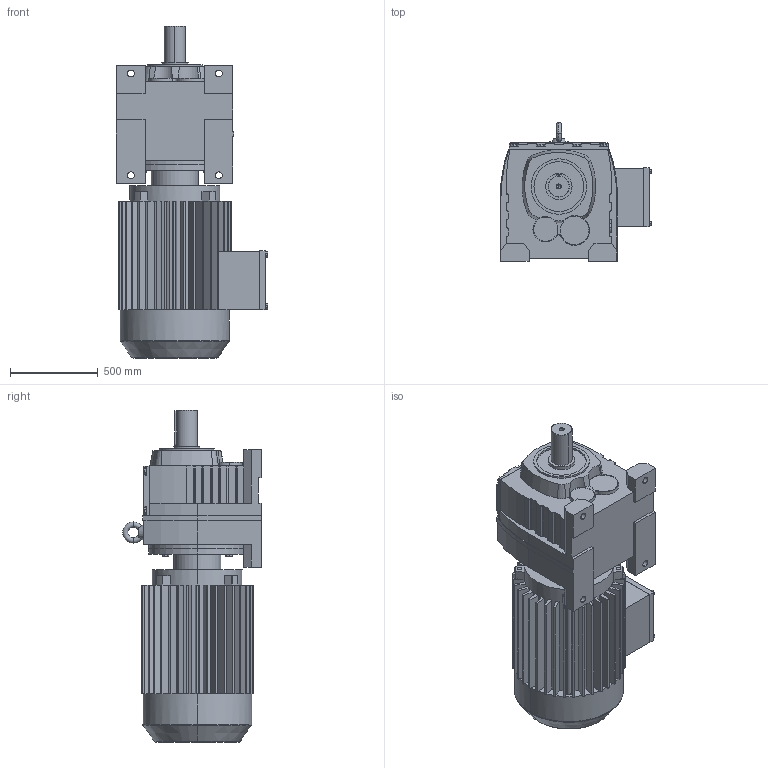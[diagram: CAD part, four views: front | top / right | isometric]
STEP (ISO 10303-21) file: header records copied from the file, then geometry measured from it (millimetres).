
FILE_DESCRIPTION(('Open CASCADE Model'),'2;1');
FILE_NAME('Open CASCADE Shape Model','2021-06-24T16:47:35',('Author'),( 'Open CASCADE'),'Open CASCADE STEP processor 6.3','Open CASCADE 6.3' ,'Unknown');
FILE_SCHEMA(('AUTOMOTIVE_DESIGN_CC2 { 1 2 10303 214 -1 1 5 4 }'));
Length unit declared in the file: millimetre
Products named in the file (3): 1_R167-Y315M; R37‵167_167.step; 萇儂_550_Y315M.step
Assembly tree (2 placements, depth 2):
  1_R167-Y315M
    R37‵167_167.step
    萇儂_550_Y315M.step
Bounding box: 865 x 790 x 1890 mm (x, y, z)
Volume: 498900403.9 mm3; surface area: 8260842.2 mm2
Topology: 2 solids, 2 shells, 729 faces, 1932 edges, 1249 vertices
Faces by surface type: plane 514, cylinder 185, cone 20, torus 10
Entity records: 50799 total; most frequent: CARTESIAN_POINT 13949, DIRECTION 6422, ORIENTED_EDGE 3860, PCURVE 3860, DEFINITIONAL_REPRESENTATION 3860, LINE 3581, VECTOR 3581, EDGE_CURVE 1930
